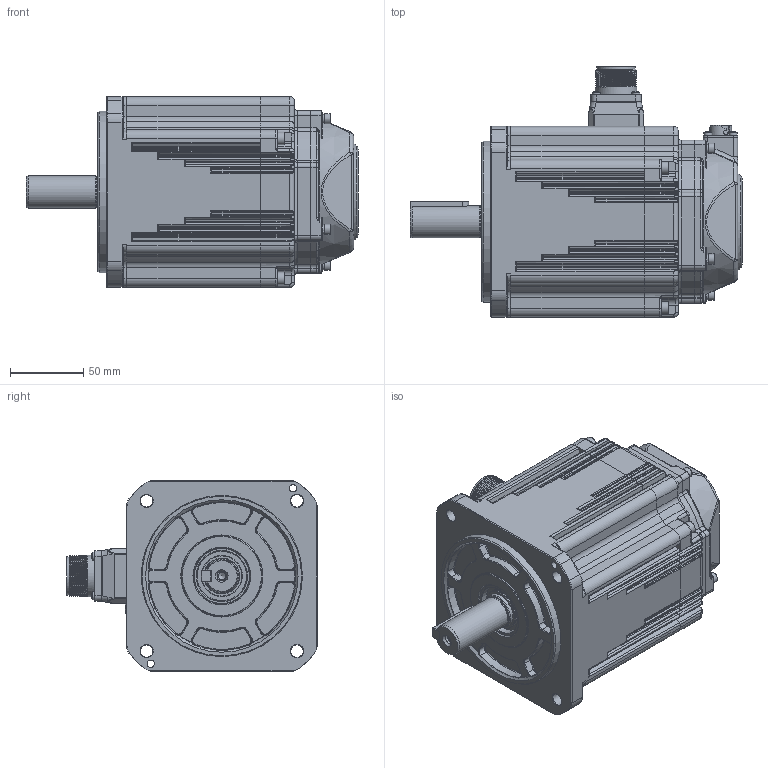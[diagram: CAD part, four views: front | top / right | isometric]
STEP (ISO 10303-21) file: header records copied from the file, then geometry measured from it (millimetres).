
FILE_DESCRIPTION (( 'STEP AP203' ), '1' );
FILE_NAME ('俋倛芞ACM2M-1313B.STEP', '2023-01-10T03:40:25', ( '' ), ( '' ), 'SwSTEP 2.0', 'SolidWorks 2021', '' );
FILE_SCHEMA (( 'CONFIG_CONTROL_DESIGN' ));
Length unit declared in the file: millimetre
Products named in the file (11): 萇埭脣釱蹟隊_M3℅10; 130价陬綴傷裔 詢39.3 ADC12 LM RoHS_傖こ; 130蛌粣09-XX 粣扥耳22 40Cr DC RoHS_LX晤鎢ん; 俋倛芞ACM2M-1313B; 130瑤脣假蚾釱; 130前端盖0.85、1.3、1.8_成品-1.3; 航插动力接插件 4芯 SZ RoHS_6芯; ﾓﾍｷ筌ｻTC｣ｻ24｡ﾁ38｡ﾁ7｣ｻSOG; 綴傷裔蹟隊_M5℅20; C型平键8×7×45螺纹拆卸型; 2M-编码盖+插座+螺钉
Assembly tree (16 placements, depth 2):
  俋倛芞ACM2M-1313B
    130前端盖0.85、1.3、1.8_成品-1.3
    130蛌粣09-XX 粣扥耳22 40Cr DC RoHS_LX晤鎢ん
    130价陬綴傷裔 詢39.3 ADC12 LM RoHS_傖こ
    綴傷裔蹟隊_M5℅20  x4
    130瑤脣假蚾釱
    航插动力接插件 4芯 SZ RoHS_6芯
    萇埭脣釱蹟隊_M3℅10  x4
    ﾓﾍｷ筌ｻTC｣ｻ24｡ﾁ38｡ﾁ7｣ｻSOG
    C型平键8×7×45螺纹拆卸型
    2M-编码盖+插座+螺钉
Bounding box: 226.5 x 170.7 x 130 mm (x, y, z)
Volume: 2403316.8 mm3; surface area: 220361.2 mm2
Topology: 34 solids, 46 shells, 3131 faces, 8024 edges, 4978 vertices
Faces by surface type: plane 1256, cylinder 915, torus 454, bspline 405, cone 76, sphere 25
Full cylindrical faces by diameter (mm): 0.75 x10, 1.007 x10, 1.5 x9, 1.6 x2, 1.68 x2, 2.2 x1, 2.4 x4, 2.48 x4, 2.5 x8, 2.598 x8, 2.6 x1, 3 x8, 3.2 x10, 3.3 x5, 3.5 x4, 3.9 x4, 4 x4, 4.2 x4, 4.5 x8, 5 x7, 5.5 x4, 5.6 x8, 6.4 x1, 7 x4, 8.5 x8, 9 x4, 11.8 x1, 13 x1, 13.2 x1, 15.2 x1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
Entity records: 119538 total; most frequent: CARTESIAN_POINT 50949, ORIENTED_EDGE 14344, DIRECTION 13259, EDGE_CURVE 7172, AXIS2_PLACEMENT_3D 5059, VERTEX_POINT 4649, EDGE_LOOP 3453, FACE_OUTER_BOUND 3191
